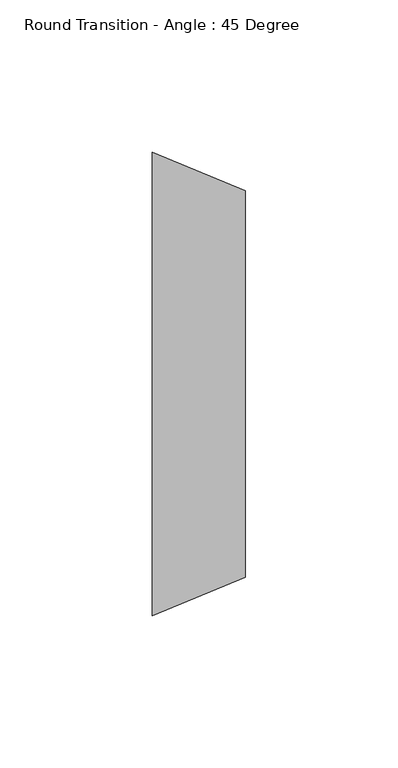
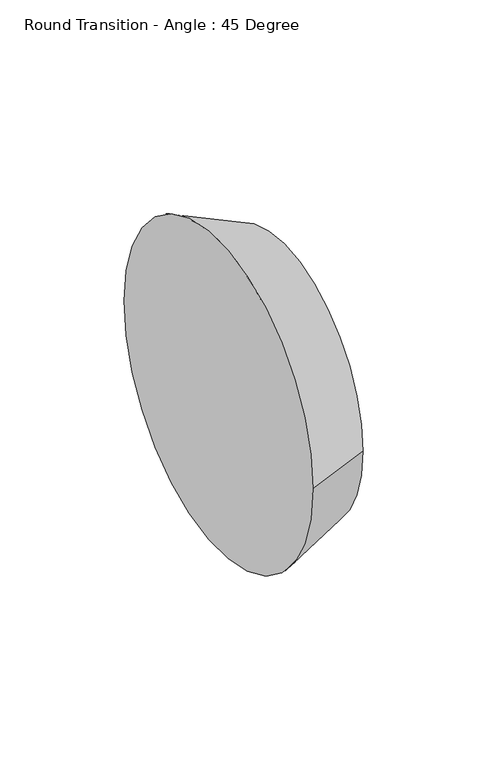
"""IFC4 building model written with IfcOpenShell, lengths in millimetres: duct fitting geometry, Round Transition - Angle : 45 Degree."""

from ifc_helpers import new_model, si_unit, frame, origin, place, context, project, spatial, polyline, circle_curve, source, transform, mapped, element, save
from ifc_brep_helpers import plane_surface, revolved_surface, advanced_brep


def round_transition_angle_45_degree_fe5c3047(model_context):
    return source(origin(), model_context, "Body", "AdvancedBrep", [
        advanced_brep(
        [(30.6605122, 63.5, 0.0), (30.6605122, -63.5, 0.0), (0.0, 76.2, 0.0), (0.0, -76.2, 0.0)],
        [
            (0, 1, circle_curve(frame((30.6605122, 0.0, 0.0), z_axis=(1.0, 0.0, 0.0), x_axis=(0.0, -1.0, 0.0)), 63.5)),
            (1, 0, circle_curve(frame((30.6605122, 0.0, 0.0), z_axis=(1.0, 0.0, 0.0), x_axis=(0.0, 1.0, 0.0)), 63.5)),
            (2, 3, circle_curve(frame((0.0, 0.0, 0.0), z_axis=(-1.0, 0.0, 0.0), x_axis=(0.0, 1.0, 0.0)), 76.2)),
            (3, 2, circle_curve(frame((0.0, 0.0, 0.0), z_axis=(-1.0, 0.0, 0.0), x_axis=(0.0, -1.0, 0.0)), 76.2)),
            (2, 0),
            (1, 3),
        ],
        [
            plane_surface(frame((30.6605122, 0.0, 0.0), z_axis=(1.0, 0.0, 0.0), x_axis=(0.0, 0.0, -1.0))),
            plane_surface(frame((0.0, 0.0, 0.0), z_axis=(-1.0, 0.0, 0.0), x_axis=(0.0, 0.0, -1.0))),
            revolved_surface(polyline([(30.6605122, 63.50000002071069, 0.0), (0.0, 76.2, 0.0)]), (183.9630735, 0.0, 0.0), (-1.0, 0.0, 0.0)),
            revolved_surface(polyline([(30.6605122, -63.50000002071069, 0.0), (0.0, -76.2, 0.0)]), (183.9630735, 0.0, 0.0), (-1.0, 0.0, 0.0)),
        ],
        [
            (0, [[1, 2]]),
            (1, [[3, 4]]),
            (2, [[5, -2, 6, -3]]),
            (3, [[-6, -1, -5, -4]]),
        ],
    ),
    ])


if __name__ == "__main__":
    model = new_model("IFC4")
    model_context = context("Model", 3, world=origin())
    ifc_project = project(units=[si_unit("LENGTHUNIT", "METRE", prefix="MILLI")], contexts=[model_context])
    site = spatial("IfcSite", under=ifc_project)
    building = spatial("IfcBuilding", under=site)
    placement = place(None, origin())
    round_transition_angle_45_degree_shape = round_transition_angle_45_degree_fe5c3047(model_context)
    element("IfcDuctFitting", 1, ObjectType="Round Transition - Angle : 45 Degree", at=placement, inside=building, context=model_context, shape_type="MappedRepresentation", body=[
        mapped(round_transition_angle_45_degree_shape, transform((0.0, 0.0, 0.0), x_axis=(1.0, 0.0, 0.0), y_axis=(0.0, 1.0, 0.0), z_axis=(0.0, 0.0, 1.0))),
    ])
    save(model, "model.ifc")
